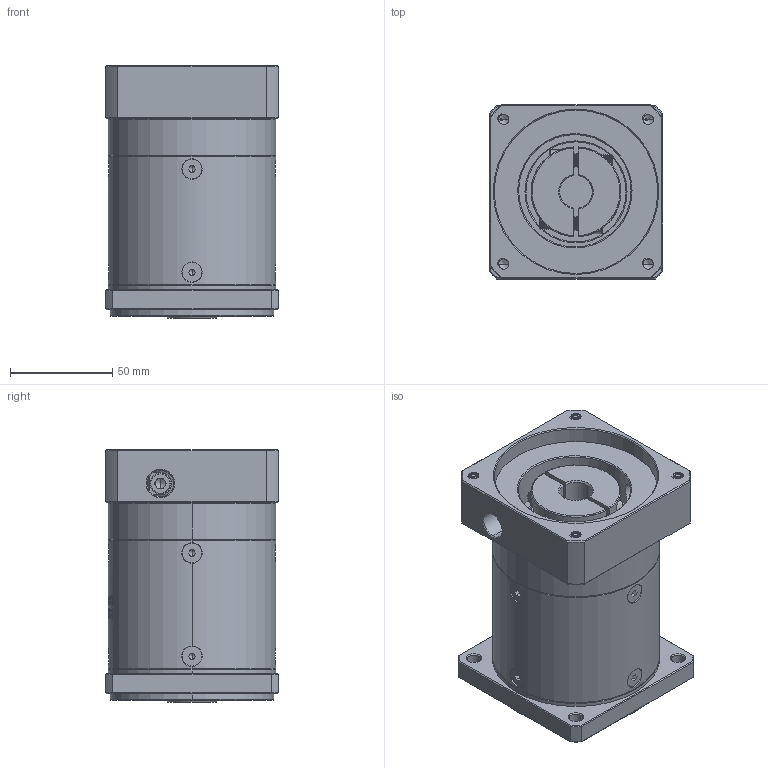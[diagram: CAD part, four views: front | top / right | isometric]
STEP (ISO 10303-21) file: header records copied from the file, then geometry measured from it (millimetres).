
FILE_DESCRIPTION (( 'STEP AP214' ), '1' );
FILE_NAME ('ZF080-K15-L2-P2-16-80-100-M6.step', '2023-08-19T05:35:57', ( '' ), ( '' ), 'SwSTEP 2.0', 'SolidWorks 2016', '' );
FILE_SCHEMA (( 'AUTOMOTIVE_DESIGN' ));
Length unit declared in the file: millimetre
Products named in the file (1): ZF080-K15-L2-P2-16-80-100-M6
Bounding box: 85 x 85 x 123.5 mm (x, y, z)
Volume: 621480.4 mm3; surface area: 92837.3 mm2
Topology: 13 solids, 13 shells, 2207 faces, 5787 edges, 3678 vertices
Faces by surface type: plane 1066, bspline 390, cylinder 384, cone 332, torus 35
Entity records: 117211 total; most frequent: CARTESIAN_POINT 43597, ORIENTED_EDGE 11518, DIRECTION 8518, EDGE_CURVE 5759, VERTEX_POINT 3678, LINE 3072, VECTOR 3072, AXIS2_PLACEMENT_3D 2723
